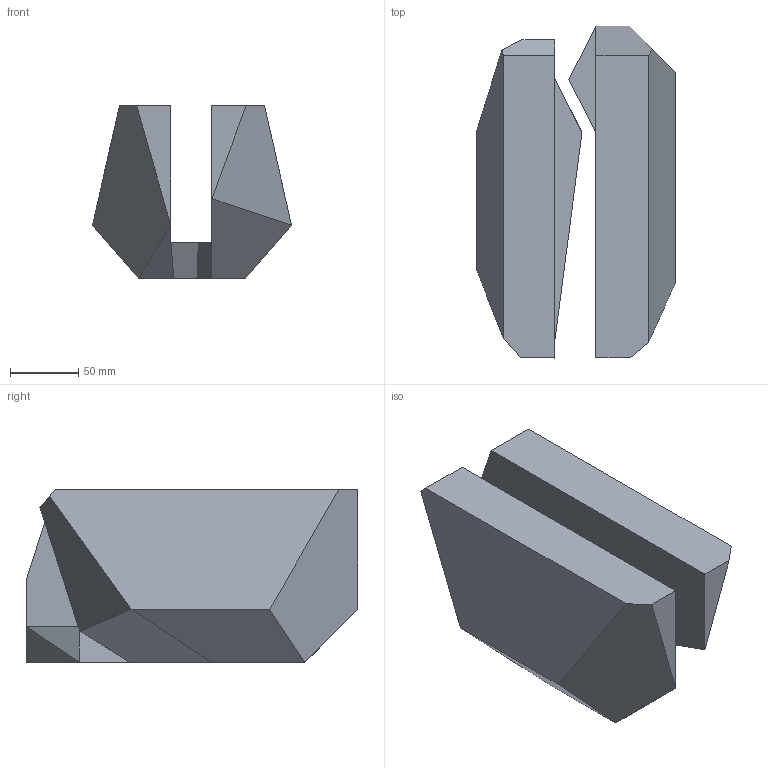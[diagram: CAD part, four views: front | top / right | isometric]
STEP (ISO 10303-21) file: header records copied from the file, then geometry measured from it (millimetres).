
FILE_DESCRIPTION (( 'STEP AP203' ), '1' );
FILE_NAME ('main facétisée applique avec 1 module évidé pour le trasnformateur.STEP', '2016-07-27T10:13:23', ( 'CR' ), ( 'Microsoft' ), 'SwSTEP 2.0', 'SolidWorks 2014', '' );
FILE_SCHEMA (( 'CONFIG_CONTROL_DESIGN' ));
Length unit declared in the file: millimetre
Products named in the file (2): base fac彋is嶪^applique refaite; main facétisée applique avec 1 module évidé pour le trasnformateur
Assembly tree (1 placements, depth 2):
  main facétisée applique avec 1 module évidé pour le trasnformateur
    base fac彋is嶪^applique refaite
Bounding box: 145.5 x 242.5 x 126.1 mm (x, y, z)
Volume: 1615001.6 mm3; surface area: 169894.7 mm2
Topology: 2 solids, 3 shells, 46 faces, 104 edges, 64 vertices
Faces by surface type: plane 46
Entity records: 1432 total; most frequent: CARTESIAN_POINT 218, ORIENTED_EDGE 208, DIRECTION 204, LINE 104, VECTOR 104, EDGE_CURVE 104, VERTEX_POINT 64, AXIS2_PLACEMENT_3D 50
